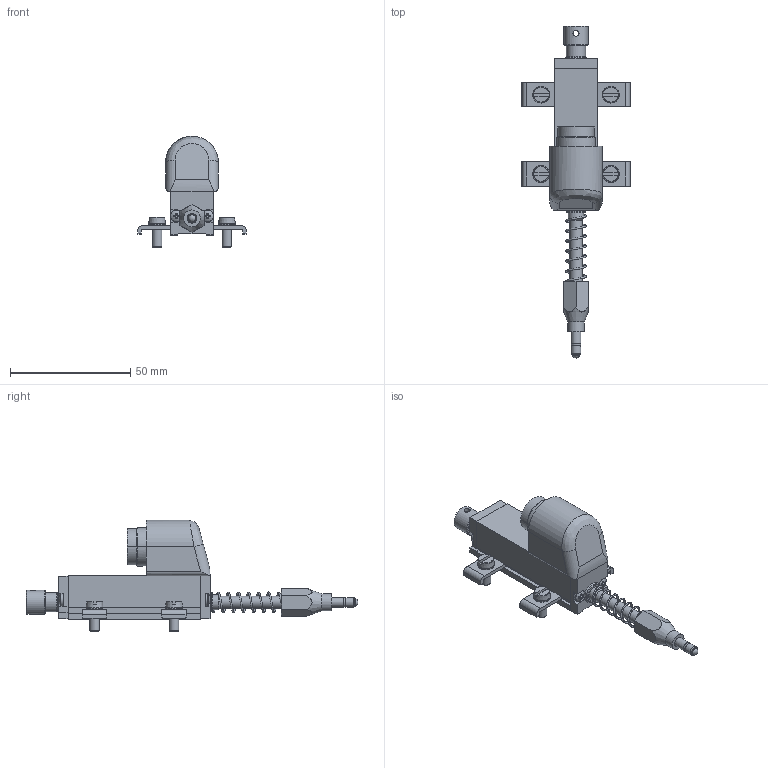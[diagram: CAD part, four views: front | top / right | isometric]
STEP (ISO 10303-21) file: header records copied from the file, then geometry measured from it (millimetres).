
FILE_DESCRIPTION( ( 'Unknown' ), '1' );
FILE_NAME( 'P:/Fertigung_TTS/2_TTS/1_CAD-Daten/4_Handelsware/3_Linearpotentiometer/LRW2_LRW3/4_Step/LRW2-C-25.stp', 'Unknown', ( 'WayCon' ), ( 'WayCon Positionsmesstechnik' ), 'PSStep 17.0.49', 'Unknown', ' ' );
FILE_SCHEMA( ( 'AUTOMOTIVE_DESIGN { 1 0 10303 214 1 1 1 1 }' ) );
Length unit declared in the file: millimetre
Products named in the file (33): MIM600X; MIM892X_ISO 1207 - M4 x 10 --- 10S; CUS046X; TES053X; BUS015X; ALB061X; PUN001X; BUS022X; Molla PY compressa MIM401X_Posizione Lavoro; TAS000X_Assemblato; MIM828X_ISO 7045 - M2.5 x 8 - Z --- 8S; STA029X; MIM510X_DIN 6905-3.6-FSt; TES049X; CON010X
Bounding box: 45 x 137.99 x 46.3 mm (x, y, z)
Volume: 853.1 mm3; surface area: 17444.4 mm2
Topology: 5 solids, 369 shells, 417 faces, 1878 edges, 1777 vertices
Faces by surface type: plane 248, cylinder 92, cone 45, torus 20, sphere 10, bspline 2
Full cylindrical faces by diameter (mm): 2.5 x2, 3.2 x1, 3.8 x2, 4 x10, 4.3 x4, 5 x5, 5.1 x2, 6.3 x2, 7 x2, 7.8 x2, 8 x1, 8.5 x1, 10 x1, 20.2 x1
Entity records: 25304 total; most frequent: CARTESIAN_POINT 7596, DIRECTION 3066, ORIENTED_EDGE 1847, EDGE_CURVE 1755, VERTEX_POINT 1738, AXIS2_PLACEMENT_3D 1107, LINE 852, VECTOR 852
